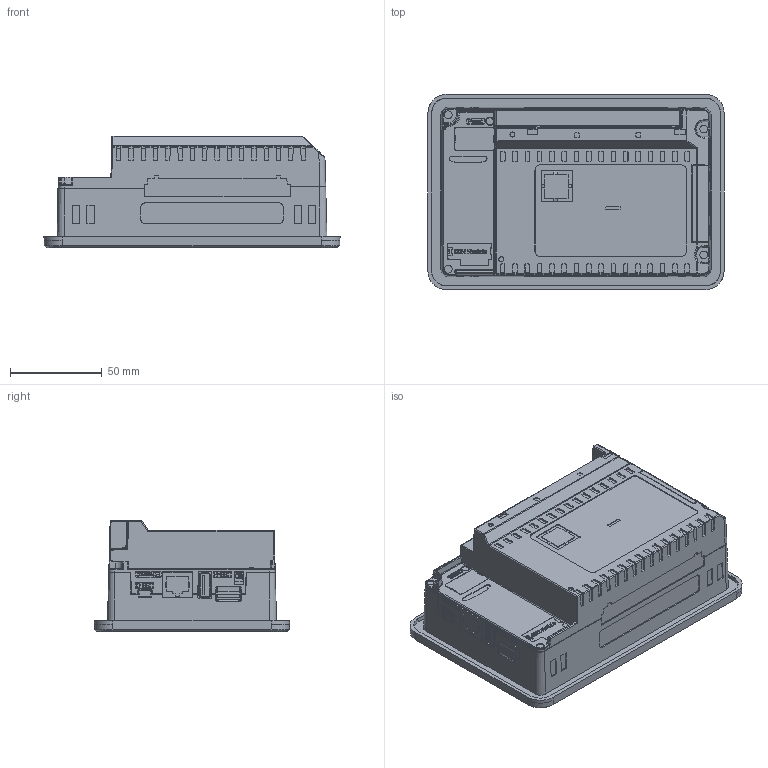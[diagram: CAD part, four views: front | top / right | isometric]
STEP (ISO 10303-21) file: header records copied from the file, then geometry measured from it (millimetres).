
FILE_DESCRIPTION (( 'STEP AP203' ), '1' );
FILE_NAME ('USP5 3D CAD.STEP', '2017-01-03T08:08:36', ( 'dell' ), ( '' ), 'SwSTEP 2.0', 'SolidWorks 2015', '' );
FILE_SCHEMA (( 'CONFIG_CONTROL_DESIGN' ));
Products named in the file (1): USP5 3D CAD
Bounding box: 161.31 x 106.31 x 60.7 mm (x, y, z)
Volume: 671393.1 mm3; surface area: 66990.3 mm2
Topology: 1 solids, 12 shells, 2452 faces, 6593 edges, 4316 vertices
Faces by surface type: plane 1408, bspline 454, cylinder 291, cone 256, sphere 32, torus 11
Entity records: 96726 total; most frequent: CARTESIAN_POINT 39733, ORIENTED_EDGE 13156, DIRECTION 9680, EDGE_CURVE 6578, VERTEX_POINT 4312, VECTOR 4128, LINE 4128, AXIS2_PLACEMENT_3D 2776
